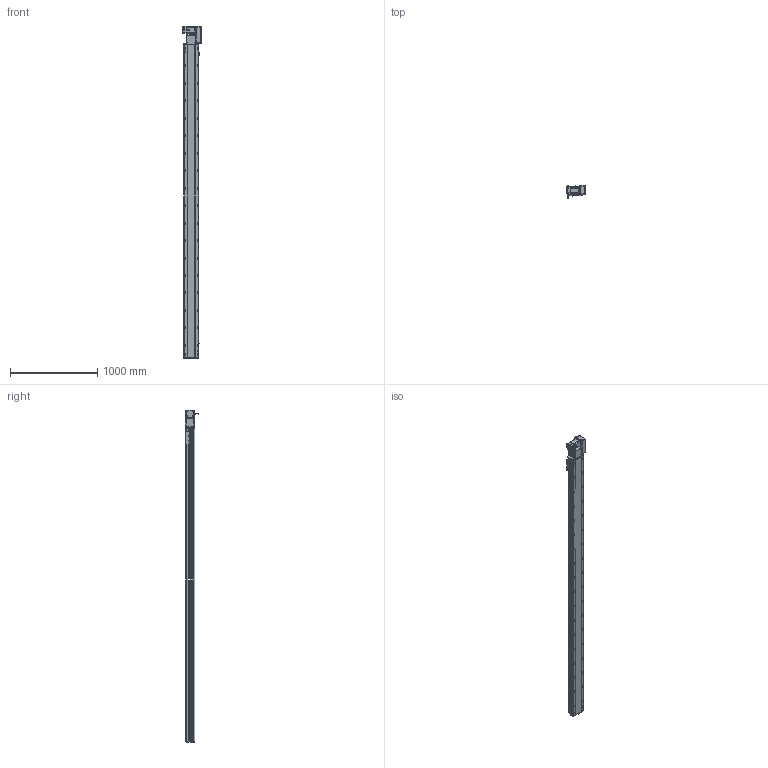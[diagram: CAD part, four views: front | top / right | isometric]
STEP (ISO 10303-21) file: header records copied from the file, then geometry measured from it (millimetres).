
FILE_DESCRIPTION (( 'STEP AP214' ), '1' );
FILE_NAME ('RTB17S-XX-3300-R-M75-C4.STEP', '2025-12-12T01:52:36', ( '' ), ( '' ), 'SwSTEP 2.0', 'SolidWorks 2018', '' );
FILE_SCHEMA (( 'AUTOMOTIVE_DESIGN' ));
Length unit declared in the file: millimetre
Products named in the file (15): RTB22S-GY-018P^RTB17S-R-々湍釱蚾饜-750W_RTB17S-XX-XX-R-M75-C4; RTB17S-L-001-耜醱啣^RTB17S-XX-XX-R-M75-C4; RTB22S-GY-008-M75--萇儂啣^RTB17S-R-々湍釱蚾饜-750W_RTB17S-XX-XX-R-M75-C4; 750W萇儂^RTB17S-XX-XX-R-M75-C4; RTB17S-R-々湍釱蚾饜-750W^RTB17S-XX-XX-R-M75-C4; RTB22S-GY-005P^RTB17S-R-々湍釱蚾饜-750W_RTB17S-XX-XX-R-M75-C4; RTB22S-GY-017P^RTB17S-R-々湍釱蚾饜-750W_RTB17S-XX-XX-R-M75-C4; RTB17S-L-014-T20-P75--々湍釱^RTB17S-R-々湍釱蚾饜-750W_RTB17S-XX-XX-R-M75-C4; RTH13-BL-012覜茼え俋离^RTB17S-賑釱_RTB17S-XX-XX-R-M75-C4; RTB17S-賑釱^RTB17S-XX-XX-R-M75-C4; RTB17S-L-004-賑釱^RTB17S-賑釱_RTB17S-XX-XX-R-M75-C4; EE672^RTB17S-XX-XX-R-M75-C4; RTB17S-XX-3300-R-M75-C4; RTB17S-L-007奻裔^RTB17S-XX-XX-R-M75-C4; RTB17-R-011菁釱^RTB17S-XX-XX-R-M75-C4
Assembly tree (17 placements, depth 3):
  RTB17S-XX-3300-R-M75-C4
    RTB17-R-011菁釱^RTB17S-XX-XX-R-M75-C4
    EE672^RTB17S-XX-XX-R-M75-C4  x3
    RTB17S-L-001-耜醱啣^RTB17S-XX-XX-R-M75-C4
    RTB17S-賑釱^RTB17S-XX-XX-R-M75-C4
      RTB17S-L-004-賑釱^RTB17S-賑釱_RTB17S-XX-XX-R-M75-C4
      RTH13-BL-012覜茼え俋离^RTB17S-賑釱_RTB17S-XX-XX-R-M75-C4
    RTB17S-L-007奻裔^RTB17S-XX-XX-R-M75-C4
    750W萇儂^RTB17S-XX-XX-R-M75-C4
    RTB17S-R-々湍釱蚾饜-750W^RTB17S-XX-XX-R-M75-C4
      RTB17S-L-014-T20-P75--々湍釱^RTB17S-R-々湍釱蚾饜-750W_RTB17S-XX-XX-R-M75-C4
      RTB22S-GY-005P^RTB17S-R-々湍釱蚾饜-750W_RTB17S-XX-XX-R-M75-C4
      RTB22S-GY-017P^RTB17S-R-々湍釱蚾饜-750W_RTB17S-XX-XX-R-M75-C4  x2
      RTB22S-GY-008-M75--萇儂啣^RTB17S-R-々湍釱蚾饜-750W_RTB17S-XX-XX-R-M75-C4
      RTB22S-GY-018P^RTB17S-R-々湍釱蚾饜-750W_RTB17S-XX-XX-R-M75-C4
Bounding box: 207.4 x 152.7 x 3799 mm (x, y, z)
Volume: 26576183.3 mm3; surface area: 4896975.6 mm2
Topology: 17 solids, 17 shells, 2281 faces, 6430 edges, 4166 vertices
Faces by surface type: plane 994, cylinder 871, bspline 294, cone 110, sphere 8, torus 4
Entity records: 67318 total; most frequent: CARTESIAN_POINT 20094, ORIENTED_EDGE 9704, DIRECTION 8942, EDGE_CURVE 4852, AXIS2_PLACEMENT_3D 3186, VERTEX_POINT 3170, VECTOR 2570, LINE 2570
